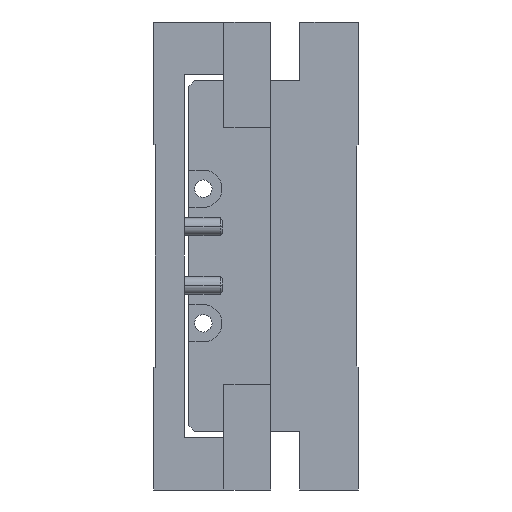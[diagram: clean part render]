
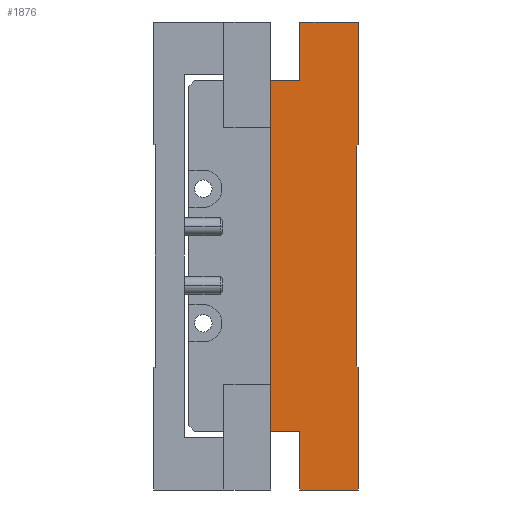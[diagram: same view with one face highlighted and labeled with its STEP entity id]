
A CAD part, left-side view. The second image highlights one B-rep face of the part: STEP entity #1876.
In plain terms, the highlighted planar face has unit normal (-1, 0, 0) as drawn and (0, 0, -1) by its records, which use the part's own axes.
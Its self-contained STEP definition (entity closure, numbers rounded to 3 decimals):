
#1=DIRECTION('',(-0.707,0.707,0.));
#2=VECTOR('',#1,0.354);
#3=CARTESIAN_POINT('',(19.05,0.,-80.));
#4=LINE('',#3,#2);
#5=DIRECTION('',(0.,-1.,0.));
#6=VECTOR('',#5,10.);
#7=CARTESIAN_POINT('',(40.,10.,-80.));
#8=LINE('',#7,#6);
#9=DIRECTION('',(1.,0.,0.));
#10=VECTOR('',#9,10.);
#11=CARTESIAN_POINT('',(30.,10.,-80.));
#12=LINE('',#11,#10);
#13=DIRECTION('',(0.,-1.,0.));
#14=VECTOR('',#13,5.);
#15=CARTESIAN_POINT('',(30.,15.,-80.));
#16=LINE('',#15,#14);
#17=DIRECTION('',(0.,-1.,0.));
#18=VECTOR('',#17,5.);
#19=CARTESIAN_POINT('',(-30.,15.,-80.));
#20=LINE('',#19,#18);
#21=DIRECTION('',(-1.,0.,0.));
#22=VECTOR('',#21,10.);
#23=CARTESIAN_POINT('',(-30.,10.,-80.));
#24=LINE('',#23,#22);
#25=DIRECTION('',(0.,-1.,0.));
#26=VECTOR('',#25,10.);
#27=CARTESIAN_POINT('',(-40.,10.,-80.));
#28=LINE('',#27,#26);
#29=DIRECTION('',(-0.707,-0.707,0.));
#30=VECTOR('',#29,0.354);
#31=CARTESIAN_POINT('',(-18.8,0.25,-80.));
#32=LINE('',#31,#30);
#33=DIRECTION('',(-1.,0.,0.));
#34=VECTOR('',#33,37.6);
#35=CARTESIAN_POINT('',(18.8,0.25,-80.));
#36=LINE('',#35,#34);
#157=DIRECTION('',(-1.,0.,0.));
#158=VECTOR('',#157,20.95);
#159=CARTESIAN_POINT('',(40.,0.,-80.));
#160=LINE('',#159,#158);
#165=DIRECTION('',(-1.,0.,0.));
#166=VECTOR('',#165,20.95);
#167=CARTESIAN_POINT('',(-19.05,0.,-80.));
#168=LINE('',#167,#166);
#848=DIRECTION('',(1.,0.,0.));
#849=VECTOR('',#848,60.);
#850=CARTESIAN_POINT('',(-30.,15.,-80.));
#851=LINE('',#850,#849);
#1429=CARTESIAN_POINT('',(-30.,15.,-80.));
#1430=CARTESIAN_POINT('',(-30.,10.,-80.));
#1431=VERTEX_POINT('',#1429);
#1432=VERTEX_POINT('',#1430);
#1433=CARTESIAN_POINT('',(-40.,10.,-80.));
#1434=VERTEX_POINT('',#1433);
#1435=CARTESIAN_POINT('',(-40.,0.,-80.));
#1436=VERTEX_POINT('',#1435);
#1461=CARTESIAN_POINT('',(30.,15.,-80.));
#1462=CARTESIAN_POINT('',(30.,10.,-80.));
#1463=VERTEX_POINT('',#1461);
#1464=VERTEX_POINT('',#1462);
#1465=CARTESIAN_POINT('',(40.,10.,-80.));
#1466=VERTEX_POINT('',#1465);
#1467=CARTESIAN_POINT('',(40.,0.,-80.));
#1468=VERTEX_POINT('',#1467);
#1605=CARTESIAN_POINT('',(19.05,0.,-80.));
#1606=CARTESIAN_POINT('',(18.8,0.25,-80.));
#1607=VERTEX_POINT('',#1605);
#1608=VERTEX_POINT('',#1606);
#1609=CARTESIAN_POINT('',(-18.8,0.25,-80.));
#1610=VERTEX_POINT('',#1609);
#1611=CARTESIAN_POINT('',(-19.05,0.,-80.));
#1612=VERTEX_POINT('',#1611);
#1845=CARTESIAN_POINT('',(0.,0.,-80.));
#1846=DIRECTION('',(0.,0.,1.));
#1847=DIRECTION('',(1.,0.,0.));
#1848=AXIS2_PLACEMENT_3D('',#1845,#1846,#1847);
#1849=PLANE('',#1848);
#1851=ORIENTED_EDGE('',*,*,#1850,.F.);
#1853=ORIENTED_EDGE('',*,*,#1852,.F.);
#1855=ORIENTED_EDGE('',*,*,#1854,.F.);
#1857=ORIENTED_EDGE('',*,*,#1856,.F.);
#1859=ORIENTED_EDGE('',*,*,#1858,.F.);
#1861=ORIENTED_EDGE('',*,*,#1860,.F.);
#1863=ORIENTED_EDGE('',*,*,#1862,.T.);
#1865=ORIENTED_EDGE('',*,*,#1864,.T.);
#1867=ORIENTED_EDGE('',*,*,#1866,.T.);
#1869=ORIENTED_EDGE('',*,*,#1868,.F.);
#1871=ORIENTED_EDGE('',*,*,#1870,.F.);
#1873=ORIENTED_EDGE('',*,*,#1872,.F.);
#1874=EDGE_LOOP('',(#1851,#1853,#1855,#1857,#1859,#1861,#1863,#1865,#1867,#1869,
#1871,#1873));
#1875=FACE_OUTER_BOUND('',#1874,.F.);
#1876=ADVANCED_FACE('',(#1875),#1849,.F.);
#1850=EDGE_CURVE('',#1607,#1608,#4,.T.);
#1852=EDGE_CURVE('',#1468,#1607,#160,.T.);
#1854=EDGE_CURVE('',#1466,#1468,#8,.T.);
#1856=EDGE_CURVE('',#1464,#1466,#12,.T.);
#1858=EDGE_CURVE('',#1463,#1464,#16,.T.);
#1860=EDGE_CURVE('',#1431,#1463,#851,.T.);
#1862=EDGE_CURVE('',#1431,#1432,#20,.T.);
#1864=EDGE_CURVE('',#1432,#1434,#24,.T.);
#1866=EDGE_CURVE('',#1434,#1436,#28,.T.);
#1868=EDGE_CURVE('',#1612,#1436,#168,.T.);
#1870=EDGE_CURVE('',#1610,#1612,#32,.T.);
#1872=EDGE_CURVE('',#1608,#1610,#36,.T.);
